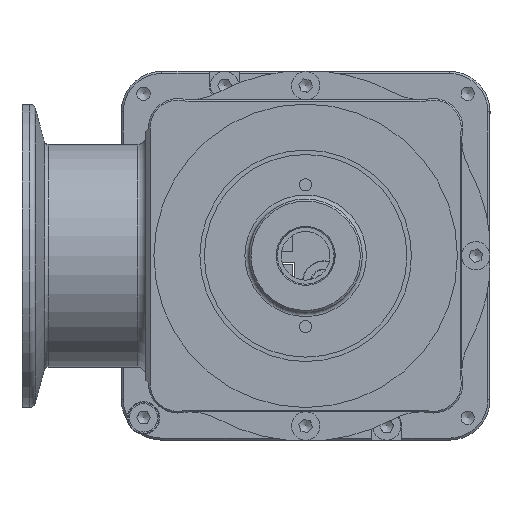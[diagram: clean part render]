
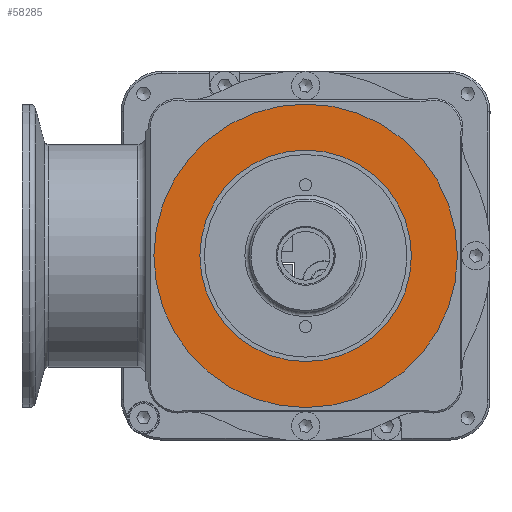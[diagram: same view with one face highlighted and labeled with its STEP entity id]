
A CAD part, left-side view. The second image highlights one B-rep face of the part: STEP entity #58285.
In plain terms, the highlighted planar face has unit normal (-1, 0, 0) as drawn and (0, -1, 0) by its records, which use the part's own axes.
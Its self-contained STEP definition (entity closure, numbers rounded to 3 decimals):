
#54144=PLANE('',#118229);
#58285=ADVANCED_FACE('',(#63122,#63123),#54144,.F.);
#63122=FACE_BOUND('',#64334,.T.);
#63123=FACE_BOUND('',#64335,.T.);
#64334=EDGE_LOOP('',(#70136));
#64335=EDGE_LOOP('',(#70137));
#70136=ORIENTED_EDGE('',*,*,#104465,.T.);
#70137=ORIENTED_EDGE('',*,*,#104466,.T.);
#95567=VERTEX_POINT('',#142198);
#95568=VERTEX_POINT('',#142200);
#104465=EDGE_CURVE('',#95567,#95567,#117191,.T.);
#104466=EDGE_CURVE('',#95568,#95568,#117192,.T.);
#117191=CIRCLE('',#118227,26.1);
#117192=CIRCLE('',#118228,37.453);
#118227=AXIS2_PLACEMENT_3D('',#142197,#123836,#123837);
#118228=AXIS2_PLACEMENT_3D('',#142199,#123838,#123839);
#118229=AXIS2_PLACEMENT_3D('',#142201,#123840,#123841);
#123836=DIRECTION('',(0.,1.,0.));
#123837=DIRECTION('',(0.,0.,1.));
#123838=DIRECTION('',(0.,-1.,0.));
#123839=DIRECTION('',(0.,0.,-1.));
#123840=DIRECTION('',(0.,1.,0.));
#123841=DIRECTION('',(0.,0.,1.));
#142197=CARTESIAN_POINT('',(0.,-32.5,0.));
#142198=CARTESIAN_POINT('',(0.,-32.5,26.1));
#142199=CARTESIAN_POINT('',(0.,-32.5,0.));
#142200=CARTESIAN_POINT('',(0.,-32.5,-37.453));
#142201=CARTESIAN_POINT('',(-31.5,-32.5,-31.5));
